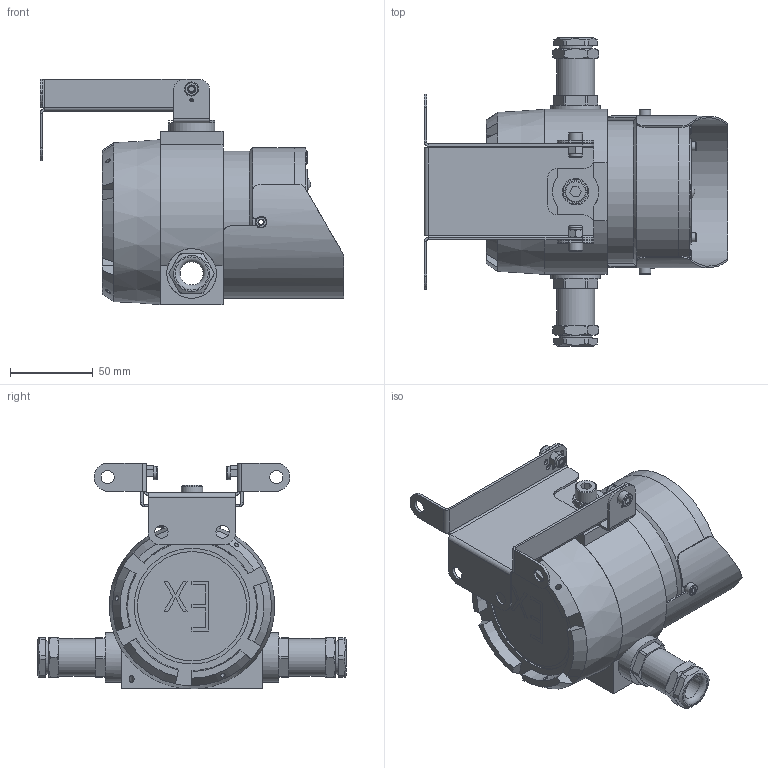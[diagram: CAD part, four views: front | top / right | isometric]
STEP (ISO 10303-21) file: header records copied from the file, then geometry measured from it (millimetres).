
FILE_DESCRIPTION (( 'STEP AP203' ), '1' );
FILE_NAME ('ÓÔ-00.000 Ïëàìÿ.STEP', '2017-12-21T06:44:56', ( 'Ïîëüçîâàòåëü' ), ( 'Windows' ), 'SwSTEP 2.0', 'SolidWorks 2015', '' );
FILE_SCHEMA (( 'CONFIG_CONTROL_DESIGN' ));
Length unit declared in the file: millimetre
Products named in the file (1): ÓÔ-00.000 Ïëàìÿ
Bounding box: 183.5 x 186.54 x 136.5 mm (x, y, z)
Surface area: 140573.5 mm2 (no closed solid volume)
Topology: 0 solids, 50 shells, 555 faces, 1793 edges, 1249 vertices
Faces by surface type: plane 310, cylinder 145, cone 78, bspline 15, torus 6, sphere 1
Full cylindrical faces by diameter (mm): 2 x2, 2.5 x2, 3 x7, 3.2 x10, 4 x6, 5.5 x2, 5.857 x2, 7 x3, 8 x7, 8.5 x6, 9 x1, 9.5 x4, 11.5 x3, 13 x1, 14 x2, 16 x1, 20 x2, 23 x2, 28 x1, 30 x2, 64 x1, 66 x1, 70 x1, 86 x1, 90 x2
Entity records: 20443 total; most frequent: CARTESIAN_POINT 5692, DIRECTION 2878, ORIENTED_EDGE 2659, EDGE_CURVE 1645, VERTEX_POINT 1214, AXIS2_PLACEMENT_3D 988, VECTOR 902, LINE 902
